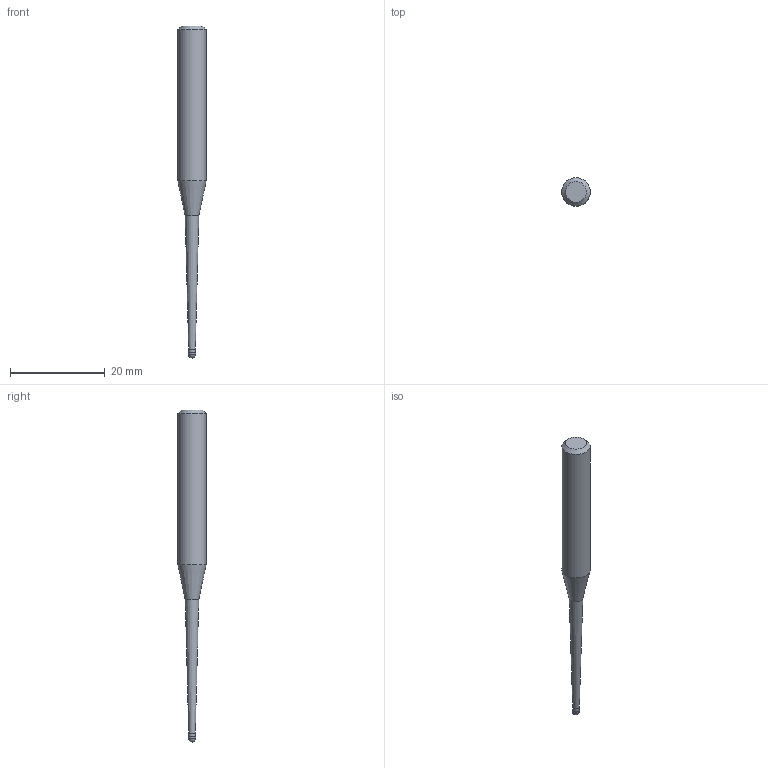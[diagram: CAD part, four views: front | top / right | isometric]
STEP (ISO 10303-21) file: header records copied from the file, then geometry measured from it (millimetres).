
FILE_DESCRIPTION((''),'2;1');
FILE_NAME('C:\Users\nsx150\AppData\Local\Temp\Mastercam 2021\E0ENTZRV18\TEMP.step','2021-09-02T09:56:35',(''),(''),'STEP Write','Mastercam 2021 ... CNC Software, Inc.','');
FILE_SCHEMA(('AUTOMOTIVE_DESIGN'));
Length unit declared in the file: millimetre
Products named in the file (1): None
Bounding box: 6 x 6 x 70 mm (x, y, z)
Volume: 1143.8 mm3; surface area: 939.5 mm2
Topology: 2 solids, 2 shells, 10 faces, 16 edges, 9 vertices
Faces by surface type: plane 3, cylinder 3, cone 3, sphere 1
Full cylindrical faces by diameter (mm): 1.39 x1, 1.5 x1, 6 x1
Entity records: 232 total; most frequent: DIRECTION 40, CARTESIAN_POINT 28, AXIS2_PLACEMENT_3D 20, ORIENTED_EDGE 16, EDGE_LOOP 16, STYLED_ITEM 13, ADVANCED_FACE 10, FACE_BOUND 9
